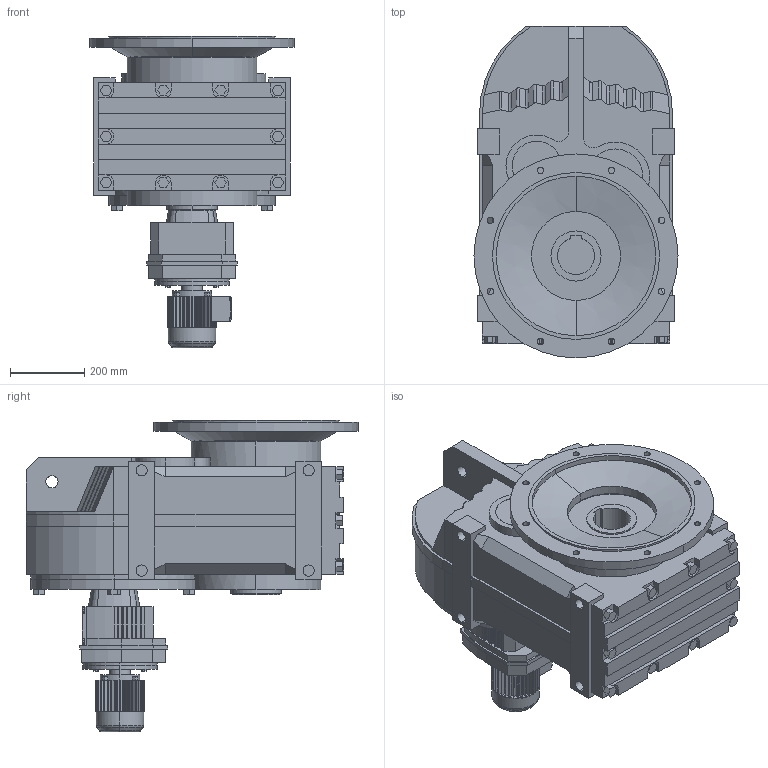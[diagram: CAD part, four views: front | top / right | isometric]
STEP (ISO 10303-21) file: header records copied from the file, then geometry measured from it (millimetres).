
FILE_DESCRIPTION(('Open CASCADE Model'),'2;1');
FILE_NAME('Open CASCADE Shape Model','2021-07-24T11:24:13',('Author'),( 'Open CASCADE'),'Open CASCADE STEP processor 6.3','Open CASCADE 6.3' ,'Unknown');
FILE_SCHEMA(('AUTOMOTIVE_DESIGN_CC2 { 1 2 10303 214 -1 1 5 4 }'));
Length unit declared in the file: millimetre
Products named in the file (6): 1_FAF127R77DR63; FAZ27‵157_127.step; 萇儂_200-DR63-179-234-132-105.step; R_127_77.step; す瑩諾陑粣F_127.step; 楊擘F_127.step
Assembly tree (5 placements, depth 2):
  1_FAF127R77DR63
    FAZ27‵157_127.step
    萇儂_200-DR63-179-234-132-105.step
    R_127_77.step
    す瑩諾陑粣F_127.step
    楊擘F_127.step
Bounding box: 550 x 895 x 840 mm (x, y, z)
Volume: 142023557.5 mm3; surface area: 3696218.8 mm2
Topology: 5 solids, 5 shells, 1050 faces, 2775 edges, 1816 vertices
Faces by surface type: plane 760, cylinder 256, bspline 16, cone 14, torus 4
Entity records: 70454 total; most frequent: CARTESIAN_POINT 16822, DIRECTION 9436, ORIENTED_EDGE 5550, PCURVE 5550, DEFINITIONAL_REPRESENTATION 5550, LINE 5519, VECTOR 5519, EDGE_CURVE 2775
